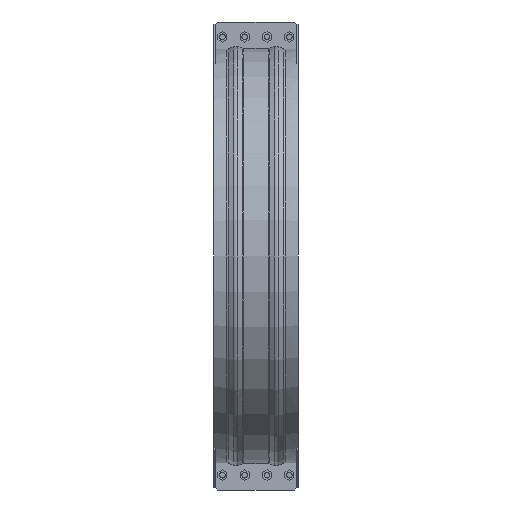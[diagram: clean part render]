
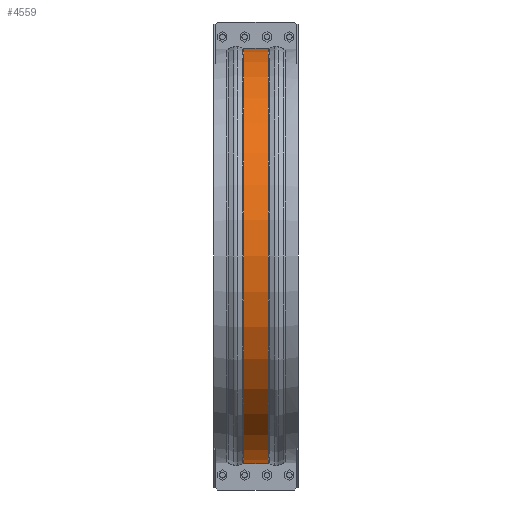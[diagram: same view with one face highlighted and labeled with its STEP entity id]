
A CAD part, front view. The second image highlights one B-rep face of the part: STEP entity #4559.
In plain terms, the highlighted cylindrical face has radius 933.752 mm (diameter 1867.5 mm), a partial arc.
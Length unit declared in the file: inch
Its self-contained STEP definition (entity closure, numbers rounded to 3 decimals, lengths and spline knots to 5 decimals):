
#414=FACE_OUTER_BOUND('',#671,.T.);
#671=EDGE_LOOP('',(#3465,#3466,#3467,#3468));
#1036=LINE('',#7017,#1485);
#1044=LINE('',#7149,#1493);
#1485=VECTOR('',#5630,0.3937);
#1493=VECTOR('',#5690,0.3937);
#1771=CIRCLE('',#4875,36.76189);
#1773=CIRCLE('',#4879,36.76189);
#2060=VERTEX_POINT('',#7009);
#2061=VERTEX_POINT('',#7016);
#2076=VERTEX_POINT('',#7134);
#2078=VERTEX_POINT('',#7147);
#2565=EDGE_CURVE('',#2061,#2060,#1036,.T.);
#2590=EDGE_CURVE('',#2076,#2061,#1771,.T.);
#2594=EDGE_CURVE('',#2078,#2060,#1773,.T.);
#2595=EDGE_CURVE('',#2078,#2076,#1044,.T.);
#3465=ORIENTED_EDGE('',*,*,#2565,.T.);
#3466=ORIENTED_EDGE('',*,*,#2594,.F.);
#3467=ORIENTED_EDGE('',*,*,#2595,.T.);
#3468=ORIENTED_EDGE('',*,*,#2590,.T.);
#4182=CYLINDRICAL_SURFACE('',#4878,36.76189);
#4559=ADVANCED_FACE('',(#414),#4182,.T.);
#4875=AXIS2_PLACEMENT_3D('',#7135,#5679,#5680);
#4878=AXIS2_PLACEMENT_3D('',#7146,#5686,#5687);
#4879=AXIS2_PLACEMENT_3D('',#7148,#5688,#5689);
#5630=DIRECTION('',(1.,0.,0.));
#5679=DIRECTION('center_axis',(1.,0.,0.));
#5680=DIRECTION('ref_axis',(0.,0.,-1.));
#5686=DIRECTION('center_axis',(1.,0.,0.));
#5687=DIRECTION('ref_axis',(0.,-1.,0.));
#5688=DIRECTION('center_axis',(1.,0.,0.));
#5689=DIRECTION('ref_axis',(0.,0.,-1.));
#5690=DIRECTION('',(-1.,0.,0.));
#7009=CARTESIAN_POINT('',(2.15101,-0.375,-36.75998));
#7016=CARTESIAN_POINT('',(-2.15101,-0.375,-36.75998));
#7017=CARTESIAN_POINT('',(0.,-0.375,-36.75998));
#7134=CARTESIAN_POINT('',(-2.15101,-0.375,36.75998));
#7135=CARTESIAN_POINT('Origin',(-2.15101,0.,0.));
#7146=CARTESIAN_POINT('Origin',(0.,0.,0.));
#7147=CARTESIAN_POINT('',(2.15101,-0.375,36.75998));
#7148=CARTESIAN_POINT('Origin',(2.15101,0.,0.));
#7149=CARTESIAN_POINT('',(0.,-0.375,36.75998));
